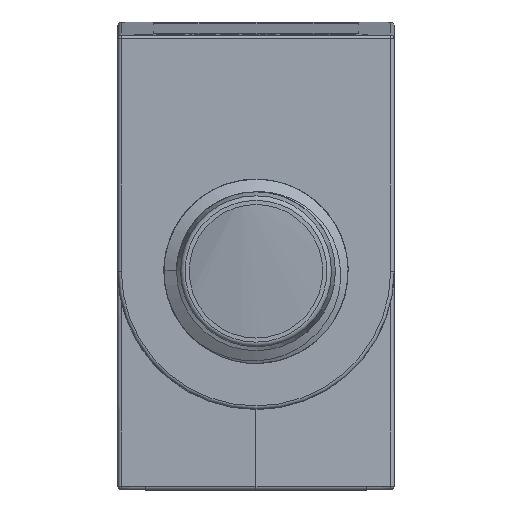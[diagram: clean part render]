
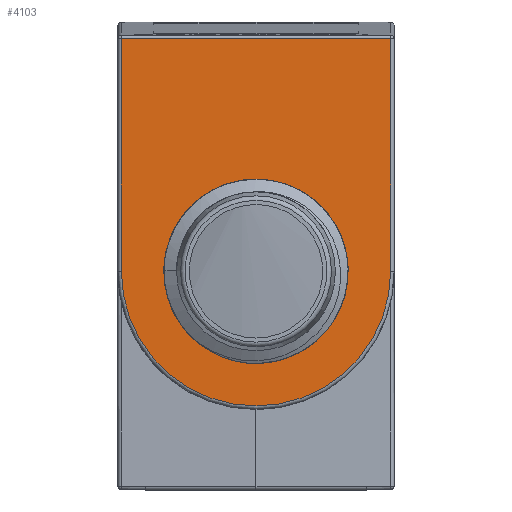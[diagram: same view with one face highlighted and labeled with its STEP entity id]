
A CAD part, front view. The second image highlights one B-rep face of the part: STEP entity #4103.
In plain terms, the highlighted planar face has unit normal (0, -1, 0).
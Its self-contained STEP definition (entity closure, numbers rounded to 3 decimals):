
#120=FACE_BOUND('',#607,.T.);
#198=PLANE('',#4430);
#341=FACE_OUTER_BOUND('',#606,.T.);
#606=EDGE_LOOP('',(#3191,#3192,#3193,#3194));
#607=EDGE_LOOP('',(#3195,#3196));
#805=CIRCLE('',#4418,5.85);
#812=CIRCLE('',#4431,3.25);
#813=CIRCLE('',#4432,3.25);
#1201=LINE('',#6866,#1510);
#1203=LINE('',#6872,#1512);
#1236=LINE('',#7006,#1545);
#1510=VECTOR('',#5134,10.);
#1512=VECTOR('',#5140,10.);
#1545=VECTOR('',#5241,10.);
#1791=VERTEX_POINT('',#6721);
#1795=VERTEX_POINT('',#6760);
#1803=VERTEX_POINT('',#6870);
#1850=VERTEX_POINT('',#7001);
#1865=VERTEX_POINT('',#7049);
#1866=VERTEX_POINT('',#7050);
#2256=EDGE_CURVE('',#1791,#1795,#1201,.T.);
#2259=EDGE_CURVE('',#1803,#1791,#1203,.T.);
#2314=EDGE_CURVE('',#1850,#1803,#805,.T.);
#2316=EDGE_CURVE('',#1795,#1850,#1236,.T.);
#2334=EDGE_CURVE('',#1865,#1866,#812,.T.);
#2335=EDGE_CURVE('',#1866,#1865,#813,.T.);
#3191=ORIENTED_EDGE('',*,*,#2259,.F.);
#3192=ORIENTED_EDGE('',*,*,#2314,.F.);
#3193=ORIENTED_EDGE('',*,*,#2316,.F.);
#3194=ORIENTED_EDGE('',*,*,#2256,.F.);
#3195=ORIENTED_EDGE('',*,*,#2334,.F.);
#3196=ORIENTED_EDGE('',*,*,#2335,.F.);
#4103=ADVANCED_FACE('',(#341,#120),#198,.T.);
#4418=AXIS2_PLACEMENT_3D('',#7003,#5235,#5236);
#4430=AXIS2_PLACEMENT_3D('',#7048,#5268,#5269);
#4431=AXIS2_PLACEMENT_3D('',#7051,#5270,#5271);
#4432=AXIS2_PLACEMENT_3D('',#7052,#5272,#5273);
#5134=DIRECTION('',(1.,0.,0.));
#5140=DIRECTION('',(0.,0.,1.));
#5235=DIRECTION('center_axis',(0.,1.,0.));
#5236=DIRECTION('ref_axis',(0.,0.,-1.));
#5241=DIRECTION('',(0.,0.,-1.));
#5268=DIRECTION('center_axis',(0.,-1.,0.));
#5269=DIRECTION('ref_axis',(0.,0.,1.));
#5270=DIRECTION('center_axis',(0.,-1.,0.));
#5271=DIRECTION('ref_axis',(0.,0.,1.));
#5272=DIRECTION('center_axis',(0.,-1.,0.));
#5273=DIRECTION('ref_axis',(0.,0.,1.));
#6721=CARTESIAN_POINT('',(-5.85,-18.,12.109));
#6760=CARTESIAN_POINT('',(5.85,-18.,12.109));
#6866=CARTESIAN_POINT('',(0.,-18.,12.109));
#6870=CARTESIAN_POINT('',(-5.85,-18.,2.));
#6872=CARTESIAN_POINT('',(-5.85,-18.,-2.75));
#7001=CARTESIAN_POINT('',(5.85,-18.,2.));
#7003=CARTESIAN_POINT('Origin',(0.,-18.,2.));
#7006=CARTESIAN_POINT('',(5.85,-18.,-2.75));
#7048=CARTESIAN_POINT('Origin',(0.,-18.,2.));
#7049=CARTESIAN_POINT('',(-3.25,-18.,2.));
#7050=CARTESIAN_POINT('',(0.,-18.,-1.25));
#7051=CARTESIAN_POINT('Origin',(0.,-18.,2.));
#7052=CARTESIAN_POINT('Origin',(0.,-18.,2.));
